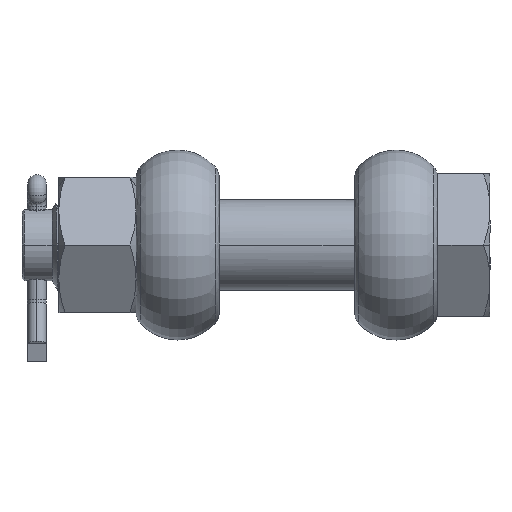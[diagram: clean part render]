
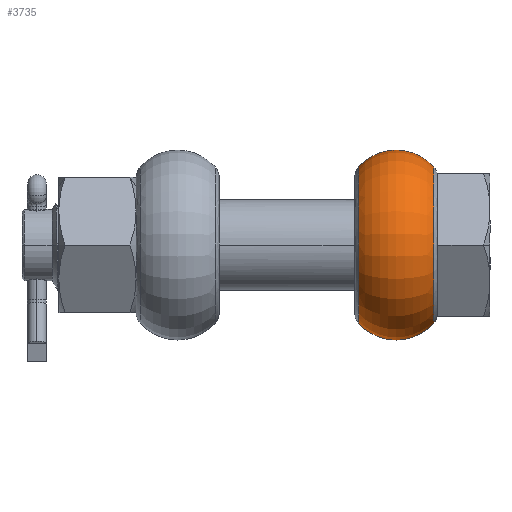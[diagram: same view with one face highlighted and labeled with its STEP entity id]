
A CAD part, front view. The second image highlights one B-rep face of the part: STEP entity #3735.
In plain terms, the highlighted toroidal (fillet/blend) face has major radius 19 mm and minor radius 21 mm.
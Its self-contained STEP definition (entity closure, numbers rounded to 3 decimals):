
#3083 = VERTEX_POINT ( 'NONE', #38760 ) ;
#3085 = EDGE_CURVE ( 'NONE', #3083, #3097, #38759, .T. ) ;
#3097 = VERTEX_POINT ( 'NONE', #38769 ) ;
#3484 = VERTEX_POINT ( 'NONE', #40451 ) ;
#3707 = ORIENTED_EDGE ( 'NONE', *, *, #3708, .T. ) ;
#3708 = EDGE_CURVE ( 'NONE', #3484, #3736, #41409, .T. ) ;
#3718 = ORIENTED_EDGE ( 'NONE', *, *, #3085, .F. ) ;
#3719 = ORIENTED_EDGE ( 'NONE', *, *, #3720, .F. ) ;
#3720 = EDGE_CURVE ( 'NONE', #3484, #3083, #41427, .T. ) ;
#3728 = EDGE_LOOP ( 'NONE', ( #3718, #3719, #3707, #3737 ) ) ;
#3735 = ADVANCED_FACE ( 'NONE', ( #41459 ), #41457, .T. ) ;
#3736 = VERTEX_POINT ( 'NONE', #41471 ) ;
#3737 = ORIENTED_EDGE ( 'NONE', *, *, #3738, .F. ) ;
#3738 = EDGE_CURVE ( 'NONE', #3097, #3736, #41470, .T. ) ;
#38755 = DIRECTION ( 'NONE',  ( 0., 0., 1. ) ) ;
#38756 = DIRECTION ( 'NONE',  ( 0., 1., 0. ) ) ;
#38757 = CARTESIAN_POINT ( 'NONE',  ( 46., 0., 19. ) ) ;
#38758 = AXIS2_PLACEMENT_3D ( 'NONE', #38757, #38756, #38755 ) ;
#38759 = CIRCLE ( 'NONE', #38758, 21. ) ;
#38760 = CARTESIAN_POINT ( 'NONE',  ( 30.25, 0., 32.89 ) ) ;
#38769 = CARTESIAN_POINT ( 'NONE',  ( 61.75, 0., 32.89 ) ) ;
#40451 = CARTESIAN_POINT ( 'NONE',  ( 30.25, 0., -32.89 ) ) ;
#41395 = DIRECTION ( 'NONE',  ( 0., 0., -1. ) ) ;
#41396 = DIRECTION ( 'NONE',  ( 0., -1., 0. ) ) ;
#41407 = CARTESIAN_POINT ( 'NONE',  ( 46., 0., -19. ) ) ;
#41408 = AXIS2_PLACEMENT_3D ( 'NONE', #41407, #41396, #41395 ) ;
#41409 = CIRCLE ( 'NONE', #41408, 21. ) ;
#41424 = DIRECTION ( 'NONE',  ( 0., 1., 0. ) ) ;
#41425 = DIRECTION ( 'NONE',  ( -1., 0., 0. ) ) ;
#41426 = AXIS2_PLACEMENT_3D ( 'NONE', #41434, #41425, #41424 ) ;
#41427 = CIRCLE ( 'NONE', #41426, 32.89 ) ;
#41434 = CARTESIAN_POINT ( 'NONE',  ( 30.25, 0., 0. ) ) ;
#41456 = AXIS2_PLACEMENT_3D ( 'NONE', #41474, #41473, #41472 ) ;
#41457 = TOROIDAL_SURFACE ( 'NONE', #41456, 19., 21. ) ;
#41459 = FACE_OUTER_BOUND ( 'NONE', #3728, .T. ) ;
#41466 = DIRECTION ( 'NONE',  ( 0., -1., 0. ) ) ;
#41467 = DIRECTION ( 'NONE',  ( 1., 0., 0. ) ) ;
#41468 = CARTESIAN_POINT ( 'NONE',  ( 61.75, 0., 0. ) ) ;
#41469 = AXIS2_PLACEMENT_3D ( 'NONE', #41468, #41467, #41466 ) ;
#41470 = CIRCLE ( 'NONE', #41469, 32.89 ) ;
#41471 = CARTESIAN_POINT ( 'NONE',  ( 61.75, 0., -32.89 ) ) ;
#41472 = DIRECTION ( 'NONE',  ( 0., 0., -1. ) ) ;
#41473 = DIRECTION ( 'NONE',  ( 1., 0., 0. ) ) ;
#41474 = CARTESIAN_POINT ( 'NONE',  ( 46., 0., 0. ) ) ;
